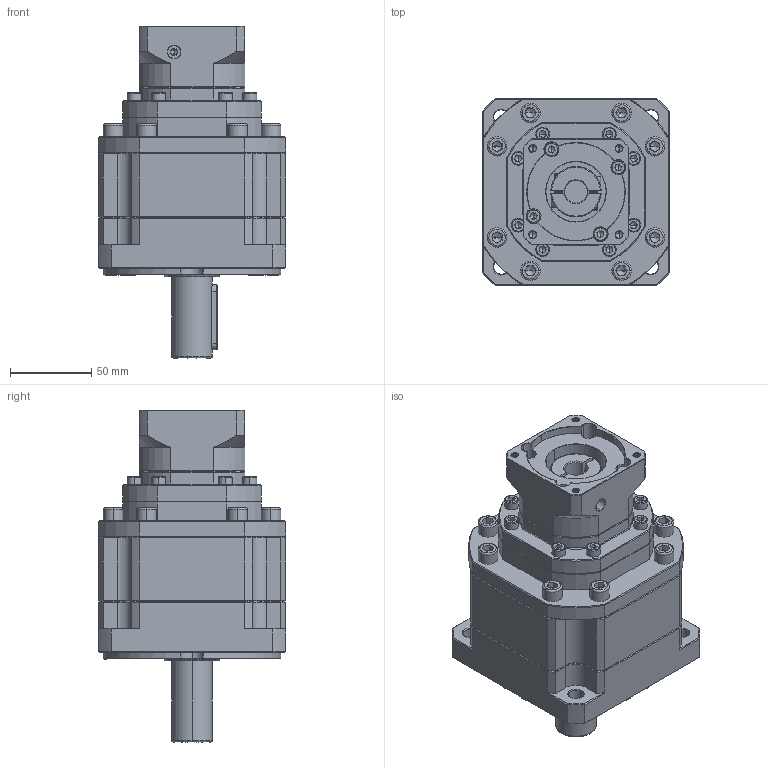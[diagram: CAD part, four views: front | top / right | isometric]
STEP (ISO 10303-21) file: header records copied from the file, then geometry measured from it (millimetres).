
FILE_DESCRIPTION (( 'STEP AP214' ), '1' );
FILE_NAME ('ZB115A-D25-L3-P2-14-60-75-M5.step', '2023-08-26T10:31:13', ( '' ), ( '' ), 'SwSTEP 2.0', 'SolidWorks 2016', '' );
FILE_SCHEMA (( 'AUTOMOTIVE_DESIGN' ));
Length unit declared in the file: millimetre
Products named in the file (1): ZB115A-D25-L3-P2-14-60-75-M5
Bounding box: 115 x 115 x 204 mm (x, y, z)
Volume: 1290247.3 mm3; surface area: 121997 mm2
Topology: 7 solids, 7 shells, 2567 faces, 6770 edges, 4313 vertices
Faces by surface type: plane 1306, cylinder 449, bspline 443, cone 347, torus 22
Entity records: 133350 total; most frequent: CARTESIAN_POINT 45210, ORIENTED_EDGE 13416, DIRECTION 10835, EDGE_CURVE 6708, VERTEX_POINT 4313, VECTOR 4283, LINE 4283, AXIS2_PLACEMENT_3D 3276
